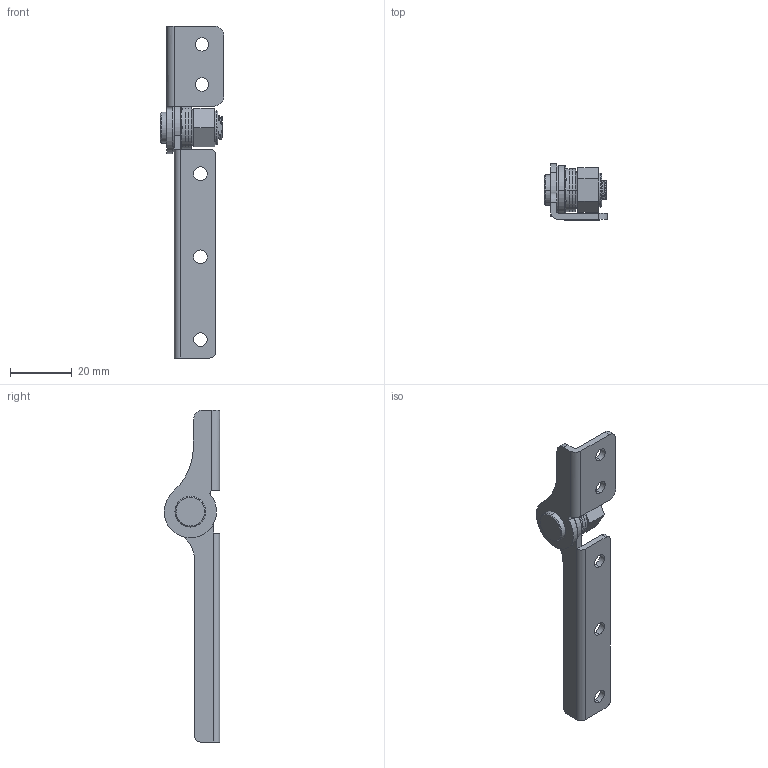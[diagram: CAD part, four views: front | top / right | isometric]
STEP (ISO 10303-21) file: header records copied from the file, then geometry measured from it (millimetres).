
FILE_DESCRIPTION (( 'STEP AP203' ), '1' );
FILE_NAME ('XG11-047-4R.STEP', '2025-07-26T07:56:29', ( '微软用户' ), ( '微软中国' ), 'SwSTEP 2.0', 'SolidWorks 2024', '' );
FILE_SCHEMA (( 'CONFIG_CONTROL_DESIGN' ));
Length unit declared in the file: millimetre
Products named in the file (1): XG11-047-4R
Bounding box: 20.5 x 18.06 x 107.81 mm (x, y, z)
Volume: 6470.2 mm3; surface area: 8366 mm2
Topology: 9 solids, 9 shells, 208 faces, 542 edges, 355 vertices
Faces by surface type: cylinder 85, plane 75, bspline 33, cone 13, torus 2
Entity records: 10950 total; most frequent: CARTESIAN_POINT 5915, ORIENTED_EDGE 1084, DIRECTION 935, EDGE_CURVE 542, VERTEX_POINT 355, AXIS2_PLACEMENT_3D 345, VECTOR 245, LINE 245
